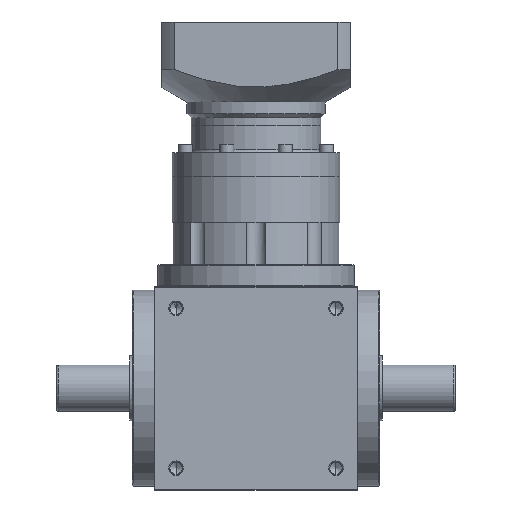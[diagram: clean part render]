
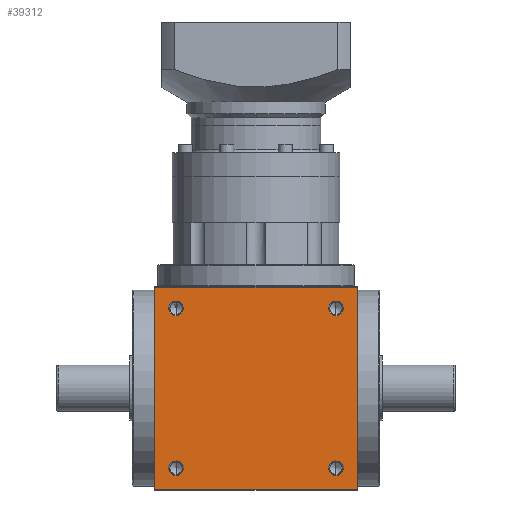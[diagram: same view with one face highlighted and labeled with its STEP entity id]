
A CAD part, front view. The second image highlights one B-rep face of the part: STEP entity #39312.
In plain terms, the highlighted planar face has unit normal (0, -1, 0).
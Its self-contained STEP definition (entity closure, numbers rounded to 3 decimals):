
#12 = AXIS2_PLACEMENT_3D ( 'NONE', #38952, #12757, #43285 ) ;
#126 = DIRECTION ( 'NONE',  ( 0., 0., -1. ) ) ;
#1015 = CARTESIAN_POINT ( 'NONE',  ( -55., -70., 119.975 ) ) ;
#1178 = DIRECTION ( 'NONE',  ( 0., 0., -1. ) ) ;
#1556 = DIRECTION ( 'NONE',  ( 0., 0., -1. ) ) ;
#2126 = DIRECTION ( 'NONE',  ( 0., -1., 0. ) ) ;
#2607 = PLANE ( 'NONE',  #51100 ) ;
#3071 = ORIENTED_EDGE ( 'NONE', *, *, #17864, .F. ) ;
#5367 = VERTEX_POINT ( 'NONE', #1015 ) ;
#5930 = ORIENTED_EDGE ( 'NONE', *, *, #23176, .F. ) ;
#6032 = CIRCLE ( 'NONE', #12, 5.025 ) ;
#6377 = EDGE_CURVE ( 'NONE', #13222, #5367, #49069, .T. ) ;
#6765 = CIRCLE ( 'NONE', #18433, 5.025 ) ;
#7807 = CARTESIAN_POINT ( 'NONE',  ( -69.5, -70., 139.5 ) ) ;
#8056 = CARTESIAN_POINT ( 'NONE',  ( -55., -70., 20.025 ) ) ;
#8136 = DIRECTION ( 'NONE',  ( 0., -1., 0. ) ) ;
#8481 = EDGE_CURVE ( 'NONE', #34669, #15870, #47740, .T. ) ;
#8889 = CARTESIAN_POINT ( 'NONE',  ( 55., -70., 9.975 ) ) ;
#9802 = CARTESIAN_POINT ( 'NONE',  ( 69.5, -70., 0.5 ) ) ;
#9874 = LINE ( 'NONE', #16831, #31741 ) ;
#9938 = ORIENTED_EDGE ( 'NONE', *, *, #17247, .F. ) ;
#11378 = DIRECTION ( 'NONE',  ( 0., -1., 0. ) ) ;
#11649 = DIRECTION ( 'NONE',  ( 0., 0., -1. ) ) ;
#11682 = CARTESIAN_POINT ( 'NONE',  ( -69.5, -70., 140. ) ) ;
#12712 = EDGE_CURVE ( 'NONE', #29102, #26047, #37867, .T. ) ;
#12757 = DIRECTION ( 'NONE',  ( 0., -1., 0. ) ) ;
#13216 = FACE_BOUND ( 'NONE', #32742, .T. ) ;
#13222 = VERTEX_POINT ( 'NONE', #52268 ) ;
#13407 = ORIENTED_EDGE ( 'NONE', *, *, #8481, .F. ) ;
#15531 = EDGE_LOOP ( 'NONE', ( #35191, #25708 ) ) ;
#15799 = DIRECTION ( 'NONE',  ( 0., 0., 1. ) ) ;
#15870 = VERTEX_POINT ( 'NONE', #8889 ) ;
#16169 = VERTEX_POINT ( 'NONE', #8056 ) ;
#16752 = CARTESIAN_POINT ( 'NONE',  ( -55., -70., 15. ) ) ;
#16831 = CARTESIAN_POINT ( 'NONE',  ( -70., -70., 0.5 ) ) ;
#17247 = EDGE_CURVE ( 'NONE', #26047, #28153, #24766, .T. ) ;
#17864 = EDGE_CURVE ( 'NONE', #25694, #47358, #19274, .T. ) ;
#18433 = AXIS2_PLACEMENT_3D ( 'NONE', #52442, #26264, #126 ) ;
#19274 = CIRCLE ( 'NONE', #33784, 5.025 ) ;
#20576 = CARTESIAN_POINT ( 'NONE',  ( -70., -70., 139.5 ) ) ;
#20924 = ORIENTED_EDGE ( 'NONE', *, *, #42557, .F. ) ;
#21010 = AXIS2_PLACEMENT_3D ( 'NONE', #53450, #27317, #1178 ) ;
#21131 = DIRECTION ( 'NONE',  ( 0., 0., -1. ) ) ;
#21182 = CIRCLE ( 'NONE', #54366, 5.025 ) ;
#23176 = EDGE_CURVE ( 'NONE', #5367, #13222, #21182, .T. ) ;
#24601 = AXIS2_PLACEMENT_3D ( 'NONE', #28221, #2126, #32649 ) ;
#24766 = LINE ( 'NONE', #33026, #35017 ) ;
#24786 = FACE_BOUND ( 'NONE', #52526, .T. ) ;
#25694 = VERTEX_POINT ( 'NONE', #52808 ) ;
#25696 = VECTOR ( 'NONE', #37843, 1000. ) ;
#25708 = ORIENTED_EDGE ( 'NONE', *, *, #51551, .F. ) ;
#25846 = CARTESIAN_POINT ( 'NONE',  ( 69.5, -70., 139.5 ) ) ;
#26047 = VERTEX_POINT ( 'NONE', #25846 ) ;
#26231 = VECTOR ( 'NONE', #51280, 1000. ) ;
#26264 = DIRECTION ( 'NONE',  ( 0., -1., 0. ) ) ;
#26515 = EDGE_CURVE ( 'NONE', #28153, #53214, #9874, .T. ) ;
#27317 = DIRECTION ( 'NONE',  ( 0., -1., 0. ) ) ;
#27662 = DIRECTION ( 'NONE',  ( 0., -1., 0. ) ) ;
#28153 = VERTEX_POINT ( 'NONE', #9802 ) ;
#28221 = CARTESIAN_POINT ( 'NONE',  ( -55., -70., 125. ) ) ;
#29102 = VERTEX_POINT ( 'NONE', #7807 ) ;
#30981 = EDGE_LOOP ( 'NONE', ( #45997, #9938, #37950, #40172 ) ) ;
#31655 = CARTESIAN_POINT ( 'NONE',  ( 55., -70., 20.025 ) ) ;
#31741 = VECTOR ( 'NONE', #42765, 1000. ) ;
#32649 = DIRECTION ( 'NONE',  ( 0., 0., -1. ) ) ;
#32742 = EDGE_LOOP ( 'NONE', ( #20924, #13407 ) ) ;
#33026 = CARTESIAN_POINT ( 'NONE',  ( 69.5, -70., 140. ) ) ;
#33138 = CARTESIAN_POINT ( 'NONE',  ( -70., -70., 140. ) ) ;
#33658 = FACE_OUTER_BOUND ( 'NONE', #30981, .T. ) ;
#33784 = AXIS2_PLACEMENT_3D ( 'NONE', #34273, #8136, #38700 ) ;
#34273 = CARTESIAN_POINT ( 'NONE',  ( 55., -70., 125. ) ) ;
#34669 = VERTEX_POINT ( 'NONE', #31655 ) ;
#35017 = VECTOR ( 'NONE', #11649, 1000. ) ;
#35191 = ORIENTED_EDGE ( 'NONE', *, *, #45744, .F. ) ;
#36289 = CIRCLE ( 'NONE', #51492, 5.025 ) ;
#36399 = CARTESIAN_POINT ( 'NONE',  ( 55., -70., 130.025 ) ) ;
#37562 = CARTESIAN_POINT ( 'NONE',  ( 55., -70., 125. ) ) ;
#37729 = EDGE_CURVE ( 'NONE', #47358, #25694, #46808, .T. ) ;
#37843 = DIRECTION ( 'NONE',  ( 0., 0., 1. ) ) ;
#37867 = LINE ( 'NONE', #20576, #26231 ) ;
#37950 = ORIENTED_EDGE ( 'NONE', *, *, #12712, .F. ) ;
#38231 = AXIS2_PLACEMENT_3D ( 'NONE', #37562, #11378, #41920 ) ;
#38700 = DIRECTION ( 'NONE',  ( 0., 0., -1. ) ) ;
#38717 = LINE ( 'NONE', #11682, #25696 ) ;
#38952 = CARTESIAN_POINT ( 'NONE',  ( 55., -70., 15. ) ) ;
#39312 = ADVANCED_FACE ( 'NONE', ( #24786, #46649, #13216, #45275, #33658 ), #2607, .F. ) ;
#40172 = ORIENTED_EDGE ( 'NONE', *, *, #48143, .F. ) ;
#40353 = CARTESIAN_POINT ( 'NONE',  ( -55., -70., 9.975 ) ) ;
#40548 = EDGE_LOOP ( 'NONE', ( #5930, #42987 ) ) ;
#41913 = DIRECTION ( 'NONE',  ( 0., 1., 0. ) ) ;
#41920 = DIRECTION ( 'NONE',  ( 0., 0., -1. ) ) ;
#42557 = EDGE_CURVE ( 'NONE', #15870, #34669, #6032, .T. ) ;
#42765 = DIRECTION ( 'NONE',  ( -1., 0., 0. ) ) ;
#42987 = ORIENTED_EDGE ( 'NONE', *, *, #6377, .F. ) ;
#43285 = DIRECTION ( 'NONE',  ( 0., 0., -1. ) ) ;
#44959 = ORIENTED_EDGE ( 'NONE', *, *, #37729, .F. ) ;
#45275 = FACE_BOUND ( 'NONE', #15531, .T. ) ;
#45744 = EDGE_CURVE ( 'NONE', #55553, #16169, #6765, .T. ) ;
#45901 = CARTESIAN_POINT ( 'NONE',  ( -69.5, -70., 0.5 ) ) ;
#45997 = ORIENTED_EDGE ( 'NONE', *, *, #26515, .F. ) ;
#46649 = FACE_BOUND ( 'NONE', #40548, .T. ) ;
#46808 = CIRCLE ( 'NONE', #38231, 5.025 ) ;
#47266 = DIRECTION ( 'NONE',  ( 0., -1., 0. ) ) ;
#47358 = VERTEX_POINT ( 'NONE', #36399 ) ;
#47740 = CIRCLE ( 'NONE', #21010, 5.025 ) ;
#48143 = EDGE_CURVE ( 'NONE', #53214, #29102, #38717, .T. ) ;
#49069 = CIRCLE ( 'NONE', #24601, 5.025 ) ;
#51100 = AXIS2_PLACEMENT_3D ( 'NONE', #33138, #41913, #15799 ) ;
#51280 = DIRECTION ( 'NONE',  ( 1., 0., 0. ) ) ;
#51492 = AXIS2_PLACEMENT_3D ( 'NONE', #16752, #47266, #21131 ) ;
#51551 = EDGE_CURVE ( 'NONE', #16169, #55553, #36289, .T. ) ;
#52268 = CARTESIAN_POINT ( 'NONE',  ( -55., -70., 130.025 ) ) ;
#52442 = CARTESIAN_POINT ( 'NONE',  ( -55., -70., 15. ) ) ;
#52526 = EDGE_LOOP ( 'NONE', ( #3071, #44959 ) ) ;
#52808 = CARTESIAN_POINT ( 'NONE',  ( 55., -70., 119.975 ) ) ;
#53214 = VERTEX_POINT ( 'NONE', #45901 ) ;
#53450 = CARTESIAN_POINT ( 'NONE',  ( 55., -70., 15. ) ) ;
#53814 = CARTESIAN_POINT ( 'NONE',  ( -55., -70., 125. ) ) ;
#54366 = AXIS2_PLACEMENT_3D ( 'NONE', #53814, #27662, #1556 ) ;
#55553 = VERTEX_POINT ( 'NONE', #40353 ) ;
